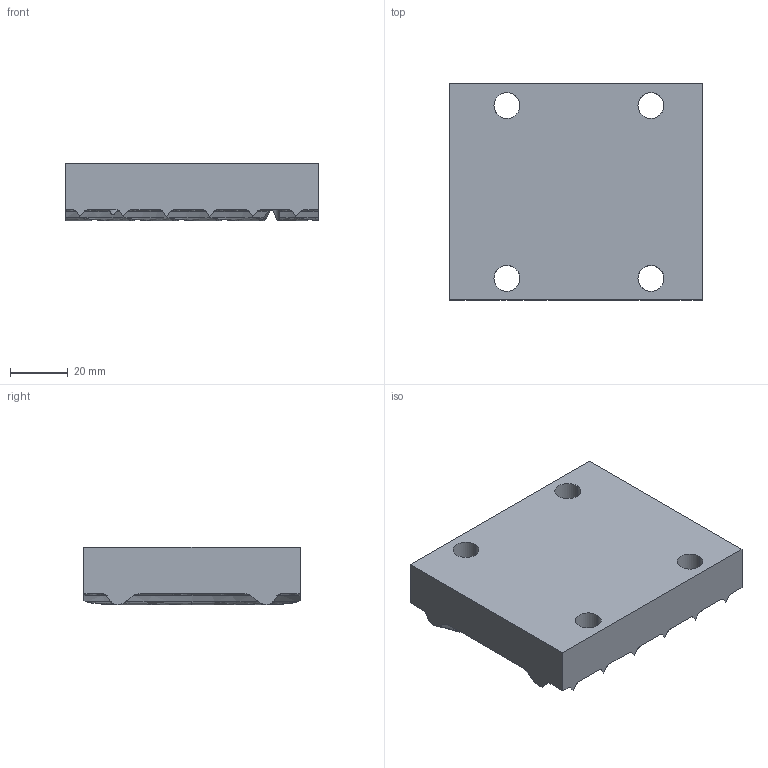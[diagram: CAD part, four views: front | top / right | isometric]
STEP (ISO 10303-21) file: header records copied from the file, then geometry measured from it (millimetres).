
FILE_DESCRIPTION(('no description'),'unknown implementation level');
FILE_NAME('KLEMMVERBINDER_75_x_88_BAT15_B_12.stp',' ',('Mulco-Europe EWIV'),('CADClick - KiM GmbH - www.kimweb.de'),'unknown preprocess','ACIS','unknown authorization');
FILE_SCHEMA(('automotive_design'));
Length unit declared in the file: millimetre
Products named in the file (1): Volumenkörper1
Bounding box: 88 x 75 x 20 mm (x, y, z)
Volume: 110129.3 mm3; surface area: 21942.2 mm2
Topology: 1 solids, 1 shells, 118 faces, 348 edges, 228 vertices
Faces by surface type: torus 68, plane 22, cone 20, cylinder 8
Entity records: 8336 total; most frequent: CARTESIAN_POINT 1477, ORIENTED_EDGE 696, STYLED_ITEM 695, PRESENTATION_STYLE_ASSIGNMENT 695, COLOUR_RGB 695, DIRECTION 614, EDGE_CURVE 348, CURVE_STYLE 348
